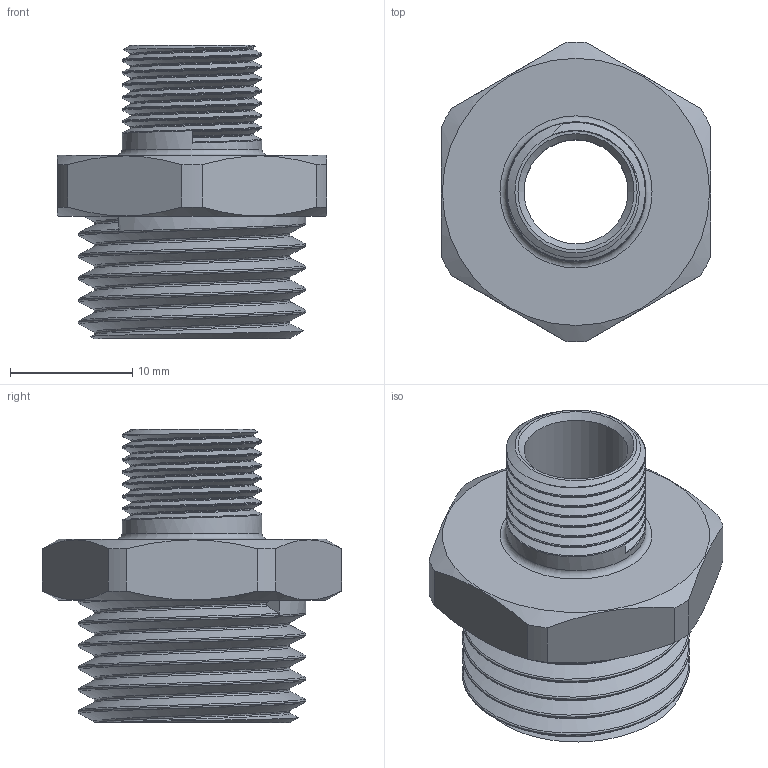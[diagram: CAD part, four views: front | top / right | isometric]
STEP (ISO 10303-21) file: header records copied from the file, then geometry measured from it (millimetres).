
FILE_DESCRIPTION(/* description */ (''),/* implementation_level */ '2;1');
FILE_NAME(/* name */ 'C:\Users\Doom\Desktop\Фадотех\Резьба\N14 18.03.2020\N14 18.03.2020.stp',/* time_stamp */ '2022-01-08T01:21:54+02:00',/* author */ ('Doom'),/* organization */ (''),/* preprocessor_version */ 'ST-DEVELOPER v18',/* originating_system */ 'Autodesk Inventor 2020',/* authorisation */ '');
FILE_SCHEMA (('AUTOMOTIVE_DESIGN { 1 0 10303 214 3 1 1 }'));
Length unit declared in the file: millimetre
Products named in the file (1): N14 18.03.2020
Bounding box: 22 x 24.5 x 24 mm (x, y, z)
Volume: 2570.3 mm3; surface area: 3276.2 mm2
Topology: 1 solids, 1 shells, 57 faces, 163 edges, 110 vertices
Faces by surface type: cylinder 25, bspline 12, plane 12, cone 7, torus 1
Full cylindrical faces by diameter (mm): 8.5 x1, 11.44 x7, 15 x1, 15.94 x1, 18.63 x5
Entity records: 8381 total; most frequent: CARTESIAN_POINT 6975, ORIENTED_EDGE 326, DIRECTION 236, EDGE_CURVE 163, VERTEX_POINT 110, AXIS2_PLACEMENT_3D 97, EDGE_LOOP 61, B_SPLINE_CURVE_WITH_KNOTS 58
